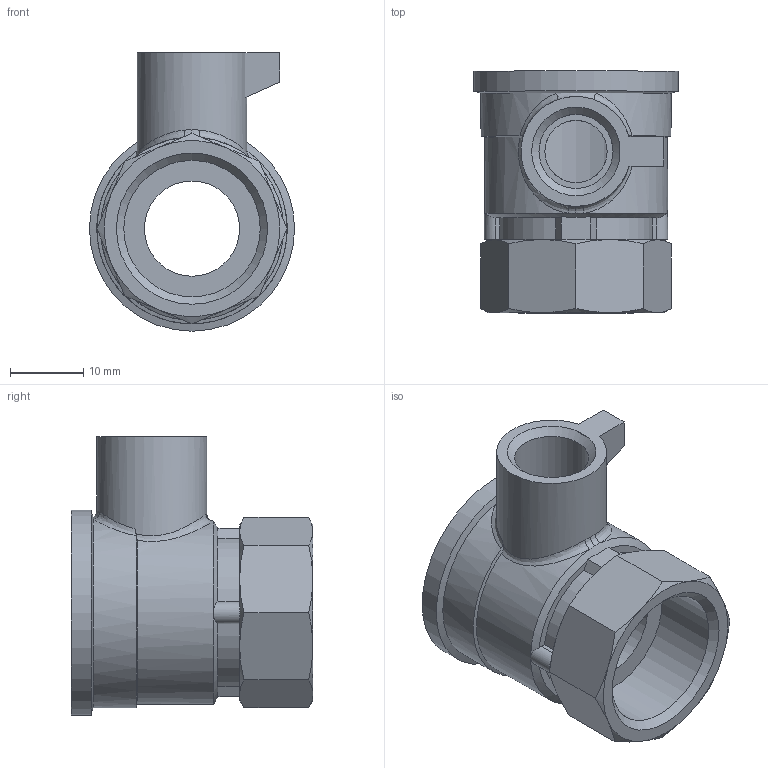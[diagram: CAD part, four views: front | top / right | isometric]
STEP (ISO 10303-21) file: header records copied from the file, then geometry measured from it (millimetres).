
FILE_DESCRIPTION(('STEP AP203'), '1');
FILE_NAME('Êîðïóñ _ À.001', '', ('UNSPECIFIED'), ('UNSPECIFIED'), 'C3D Converter', 'C3D Toolkit', '');
FILE_SCHEMA(('CONFIG_CONTROL_DESIGN'));
Length unit declared in the file: millimetre
Products named in the file (1): А.001
Bounding box: 28 x 33 x 38 mm (x, y, z)
Volume: 7289.4 mm3; surface area: 6654.3 mm2
Topology: 1 solids, 1 shells, 83 faces, 201 edges, 124 vertices
Faces by surface type: plane 38, cone 22, cylinder 16, bspline 7
Full cylindrical faces by diameter (mm): 8.5 x1, 10.106 x1, 13 x1, 15 x1, 17 x1, 18.632 x1, 22 x1, 28 x1
Entity records: 4705 total; most frequent: CARTESIAN_POINT 2202, ORIENTED_EDGE 380, DIRECTION 347, EDGE_CURVE 190, AXIS2_PLACEMENT_3D 147, VERTEX_POINT 124, EDGE_LOOP 102, COLOUR_RGB 84
